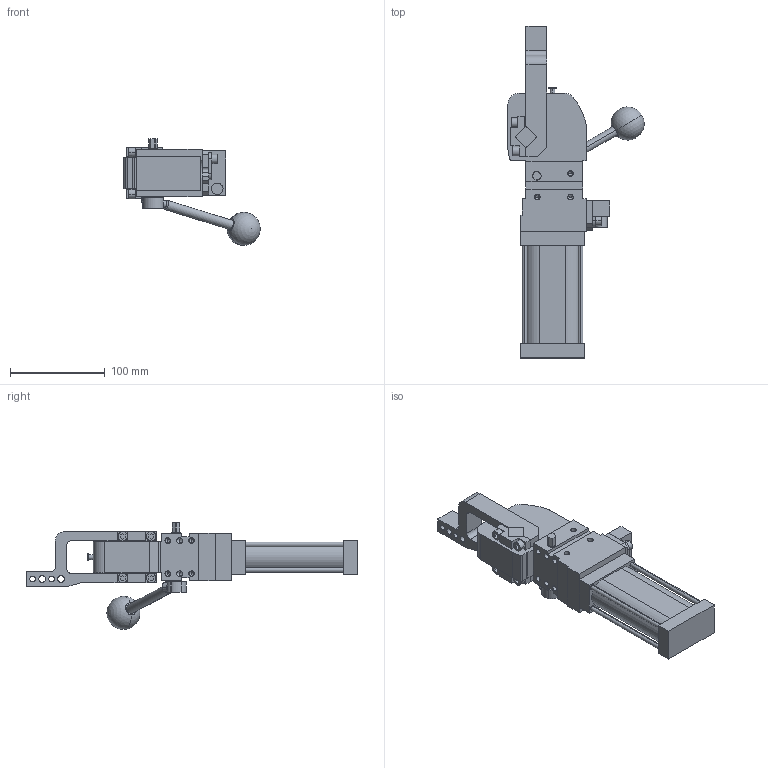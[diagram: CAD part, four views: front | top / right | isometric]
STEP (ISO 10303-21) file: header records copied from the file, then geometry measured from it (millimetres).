
FILE_DESCRIPTION (( 'STEP AP214' ), '1' );
FILE_NAME ('cplm40lbh2dsi1g_91.STEP', '2021-05-25T12:35:03', ( '' ), ( '' ), 'SwSTEP 2.0', 'SolidWorks 2021', '' );
FILE_SCHEMA (( 'AUTOMOTIVE_DESIGN' ));
Length unit declared in the file: millimetre
Products named in the file (6): leva_v2d_cpl40; cplm40lbh2dsi1g_91; piastra_blocchetto_cpl40; comando_manuale_cplm_40; meccanica_cplm40; blocchetto_VEP_0_cpl40
Assembly tree (5 placements, depth 2):
  cplm40lbh2dsi1g_91
    meccanica_cplm40
    blocchetto_VEP_0_cpl40
    piastra_blocchetto_cpl40
    leva_v2d_cpl40
    comando_manuale_cplm_40
Bounding box: 143.62 x 350 x 112.66 mm (x, y, z)
Volume: 801141.7 mm3; surface area: 125252.2 mm2
Topology: 6 solids, 6 shells, 485 faces, 1243 edges, 785 vertices
Faces by surface type: plane 283, cylinder 154, cone 46, sphere 2
Entity records: 16007 total; most frequent: CARTESIAN_POINT 2589, DIRECTION 2542, ORIENTED_EDGE 2392, EDGE_CURVE 1196, AXIS2_PLACEMENT_3D 857, VECTOR 828, LINE 828, VERTEX_POINT 782
